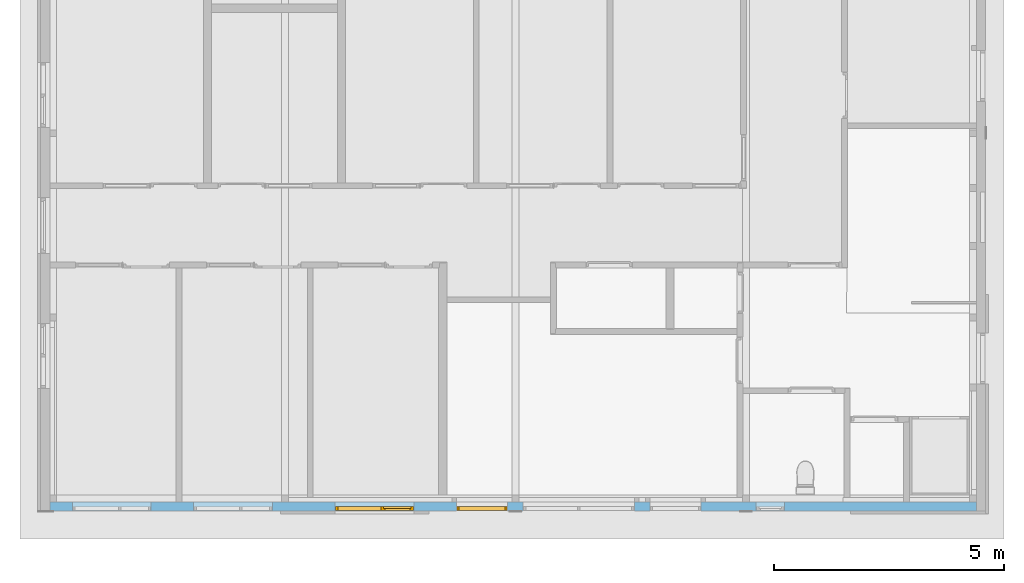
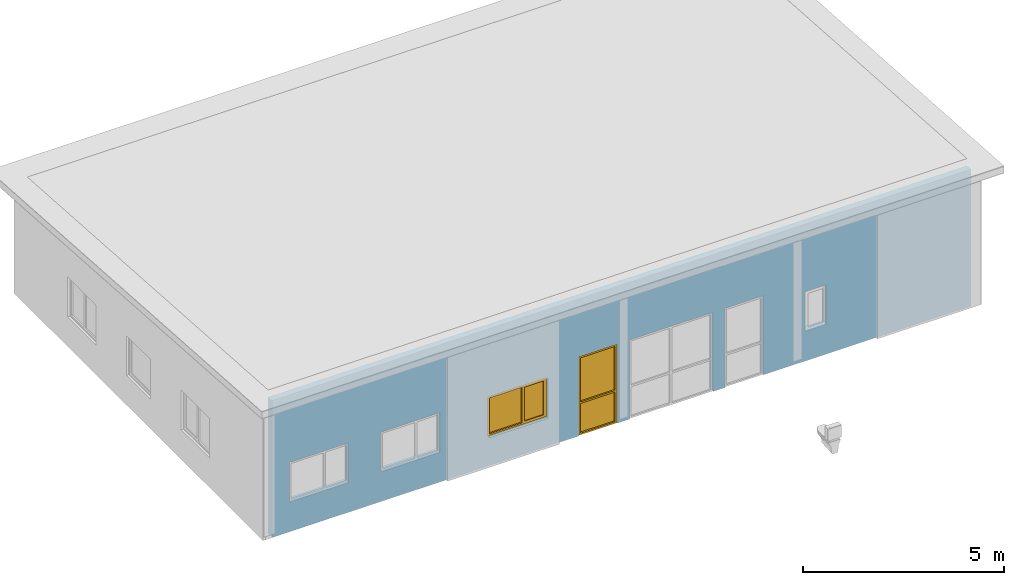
# One storey, part 14 of 37: 2 windows, 7 openings, plus 1 element that does not belong to this part.
"""IFC2X3 building model written with IfcOpenShell, lengths in millimetres."""

from ifc_helpers import new_model, entity, si_unit, converted_unit, frame, frame_2d, origin, origin_with_axes, place, context, subcontext, project, spatial, rectangle, extrude, clip, halfspace, faceted_brep, material, layer, layer_set, layer_usage, type_object, element, fill, save


model = new_model("IFC2X3")

# Units and contexts
model_context = context("Model", 3, precision=1e-05, world=origin())
plan_context = context("Plan", 3, precision=1e-05, world=origin())
body_context = subcontext(model_context, "Body", "Model", "MODEL_VIEW")
ifc_project = project(units=[si_unit("LENGTHUNIT", "METRE", prefix="MILLI"), converted_unit("PLANEANGLEUNIT", "DEGREE", entity("IfcPlaneAngleMeasure", 0.0174532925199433), si_unit("PLANEANGLEUNIT", "RADIAN"), dimensions=[0, 0, 0, 0, 0, 0, 0]), si_unit("AREAUNIT", "SQUARE_METRE"), si_unit("VOLUMEUNIT", "CUBIC_METRE")], contexts=[model_context, plan_context])

# Building, storey
building_placement = place(None, origin())
building = spatial("IfcBuilding", under=ifc_project, at=building_placement, Name="HEKF Administrasjonbygg", CompositionType="ELEMENT")
storey_placement = place(building_placement, frame((0.0, 0.0, 9900.0), z_axis=(0.0, 0.0, 1.0), x_axis=(1.0, 0.0, 0.0)))
storey = spatial("IfcBuildingStorey", under=building, at=storey_placement, Name="Plan 2", CompositionType="ELEMENT", Elevation=9900.0)

# Wall, openings, windows
ifc_material_1 = material(Name="Paroc 200")
ifc_layer = layer(ifc_material_1, 200.0)
ifc_layer_set = layer_set([ifc_layer])
ifc_layer_usage = layer_usage(ifc_layer_set, "AXIS2", "POSITIVE", 0.0)
wall_placement = place(storey_placement, frame((30000.0, -12000.0, 0.0), z_axis=(0.0, 0.0, 1.0), x_axis=(-1.0, 9.049698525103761e-17, 0.0)))
wall = element("IfcWallStandardCase", 1, at=wall_placement, inside=storey, material=ifc_layer_usage, context=body_context, shape_type="Clipping", body=[
    clip(extrude(rectangle(XDim=20100.00000000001, YDim=200.0, at=frame_2d((10050.0, 100.0), x_axis=(1.0, 0.0))), origin_with_axes(), (0.0, 0.0, 1.0), 4163.33333333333), halfspace(frame((0.0, 0.0, 4149.999999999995), z_axis=(9.405890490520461e-21, 0.06651901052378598, -0.9977851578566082), x_axis=(1.0, 0.0, 0.0)), True)),
])
opening_1_placement = place(wall_placement, frame((4165.0, 0.0, 900.0), z_axis=(0.0, 1.0, 0.0), x_axis=(0.0, 0.0, 1.0)))
element("IfcOpeningElement", 2, at=opening_1_placement, cuts=wall, Name="Window opening", ObjectType="Opening", context=body_context, shape_type="SweptSolid", body=[
    extrude(rectangle(XDim=1210.0, YDim=610.0, at=frame_2d((605.0, 305.0), x_axis=(1.0, 0.0))), origin_with_axes(), (0.0, 0.0, 1.0), 200.0),
])
opening_2_placement = place(wall_placement, frame((7420.0, 0.0, 0.0), z_axis=(0.0, 1.0, 0.0), x_axis=(0.0, 0.0, 1.0)))
element("IfcOpeningElement", 3, at=opening_2_placement, cuts=wall, Name="Window opening", ObjectType="Opening", context=body_context, shape_type="SweptSolid", body=[
    extrude(rectangle(XDim=2410.0, YDim=2410.0, at=frame_2d((1205.0, 1205.0), x_axis=(1.0, 0.0))), origin_with_axes(), (0.0, 0.0, 1.0), 200.0),
])
opening_3_placement = place(wall_placement, frame((5970.0, 0.0, 0.0), z_axis=(0.0, 1.0, 0.0), x_axis=(0.0, 0.0, 1.0)))
element("IfcOpeningElement", 4, at=opening_3_placement, cuts=wall, Name="Window opening", ObjectType="Opening", context=body_context, shape_type="SweptSolid", body=[
    extrude(rectangle(XDim=2410.0, YDim=1110.0, at=frame_2d((1205.0, 555.0), x_axis=(1.0, 0.0))), origin_with_axes(), (0.0, 0.0, 1.0), 200.0),
])
opening_4_placement = place(wall_placement, frame((10170.0, -1.818989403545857e-12, 0.0), z_axis=(0.0, 1.0, 0.0), x_axis=(0.0, 0.0, 1.0)))
opening_4 = element("IfcOpeningElement", 5, at=opening_4_placement, cuts=wall, Name="Window opening", ObjectType="Opening", context=body_context, shape_type="SweptSolid", body=[
    extrude(rectangle(XDim=2410.0, YDim=1110.0, at=frame_2d((1205.0, 555.0), x_axis=(1.0, 0.0))), origin_with_axes(), (0.0, 0.0, 1.0), 200.0),
])
opening_5_placement = place(wall_placement, frame((12200.0, -1.818989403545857e-12, 900.0), z_axis=(0.0, 1.0, 0.0), x_axis=(0.0, 0.0, 1.0)))
opening_5 = element("IfcOpeningElement", 6, at=opening_5_placement, cuts=wall, Name="Window opening", ObjectType="Opening", context=body_context, shape_type="SweptSolid", body=[
    extrude(rectangle(XDim=1210.0, YDim=1709.999999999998, at=frame_2d((605.0, 854.9999999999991), x_axis=(1.0, 0.0))), origin_with_axes(), (0.0, 0.0, 1.0), 200.0),
])
opening_6_placement = place(wall_placement, frame((15270.0, -1.818989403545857e-12, 900.0), z_axis=(0.0, 1.0, 0.0), x_axis=(0.0, 0.0, 1.0)))
element("IfcOpeningElement", 7, at=opening_6_placement, cuts=wall, Name="Window opening", ObjectType="Opening", context=body_context, shape_type="SweptSolid", body=[
    extrude(rectangle(XDim=1210.0, YDim=1710.0, at=frame_2d((605.0, 855.0), x_axis=(1.0, 0.0))), origin_with_axes(), (0.0, 0.0, 1.0), 200.0),
])
opening_7_placement = place(wall_placement, frame((17900.0, -1.818989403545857e-12, 900.0), z_axis=(0.0, 1.0, 0.0), x_axis=(0.0, 0.0, 1.0)))
element("IfcOpeningElement", 8, at=opening_7_placement, cuts=wall, Name="Window opening", ObjectType="Opening", context=body_context, shape_type="SweptSolid", body=[
    extrude(rectangle(XDim=1210.0, YDim=1710.0, at=frame_2d((605.0, 855.0), x_axis=(1.0, 0.0))), origin_with_axes(), (0.0, 0.0, 1.0), 200.0),
])
ifc_material_2 = material()
window_style_1 = type_object("IfcWindowStyle", Name="V204", ConstructionType="NOTDEFINED", OperationType="USERDEFINED", ParameterTakesPrecedence=False, Sizeable=False)
window_1_placement = place(opening_4_placement, frame((0.0, 0.0, 0.0), z_axis=(1.0, 0.0, 0.0), x_axis=(0.0, 1.0, 0.0)))
window_1 = element("IfcWindow", 9, at=window_1_placement, inside=storey, type_object=window_style_1, material=ifc_material_2, Name="V204", OverallHeight=2410.0, OverallWidth=1110.0, context=body_context, shape_type="Brep", body=[
    faceted_brep([(1100.0, 93.99999999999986, 2400.000000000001), (1100.0, 94.0, 9.999999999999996), (1050.0, 94.0, 9.999999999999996), (1050.0, 93.99999999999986, 2400.000000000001), (1100.0, 186.0, 10.0), (1100.0, 185.9999999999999, 2400.000000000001), (1050.0, 185.9999999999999, 2400.000000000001), (1050.0, 186.0, 10.0), (1100.0, 94.0, 9.999999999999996), (1100.0, 93.99999999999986, 2400.000000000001), (1100.0, 185.9999999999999, 2400.000000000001), (1100.0, 186.0, 10.0), (1050.0, 94.0, 9.999999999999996), (1100.0, 94.0, 9.999999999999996), (1100.0, 186.0, 10.0), (1050.0, 186.0, 10.0), (1050.0, 93.99999999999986, 2400.000000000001), (1050.0, 94.0, 9.999999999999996), (1050.0, 186.0, 10.0), (1050.0, 185.9999999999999, 2400.000000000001), (1100.0, 93.99999999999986, 2400.000000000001), (1050.0, 93.99999999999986, 2400.000000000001), (1050.0, 185.9999999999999, 2400.000000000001), (1100.0, 185.9999999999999, 2400.000000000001)], [[[0, 1, 2, 3]], [[4, 5, 6, 7]], [[8, 9, 10, 11]], [[12, 13, 14, 15]], [[16, 17, 18, 19]], [[20, 21, 22, 23]]], orient=[[False], [False], [False], [False], [False], [False]]),
    faceted_brep([(60.0, 93.99999999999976, 2400.000000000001), (60.0, 93.9999999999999, 9.999999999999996), (10.0, 93.9999999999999, 9.999999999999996), (10.0, 93.99999999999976, 2400.000000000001), (60.0, 185.9999999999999, 10.0), (60.0, 185.9999999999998, 2400.000000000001), (10.0, 185.9999999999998, 2400.000000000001), (10.0, 185.9999999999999, 10.0), (60.0, 93.9999999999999, 9.999999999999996), (60.0, 93.99999999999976, 2400.000000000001), (60.0, 185.9999999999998, 2400.000000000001), (60.0, 185.9999999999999, 10.0), (10.0, 93.9999999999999, 9.999999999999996), (60.0, 93.9999999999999, 9.999999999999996), (60.0, 185.9999999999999, 10.0), (10.0, 185.9999999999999, 10.0), (10.0, 93.99999999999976, 2400.000000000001), (10.0, 93.9999999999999, 9.999999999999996), (10.0, 185.9999999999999, 10.0), (10.0, 185.9999999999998, 2400.000000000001), (60.0, 93.99999999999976, 2400.000000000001), (10.0, 93.99999999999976, 2400.000000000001), (10.0, 185.9999999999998, 2400.000000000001), (60.0, 185.9999999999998, 2400.000000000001)], [[[0, 1, 2, 3]], [[4, 5, 6, 7]], [[8, 9, 10, 11]], [[12, 13, 14, 15]], [[16, 17, 18, 19]], [[20, 21, 22, 23]]], orient=[[False], [False], [False], [False], [False], [False]]),
    faceted_brep([(1050.0, 94.0, 60.0), (1050.0, 94.0, 9.999999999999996), (60.0, 93.9999999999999, 9.999999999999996), (60.0, 93.9999999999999, 60.0), (1050.0, 186.0, 10.0), (1050.0, 186.0, 60.0), (60.0, 185.9999999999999, 60.0), (60.0, 185.9999999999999, 10.0), (1050.0, 94.0, 9.999999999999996), (1050.0, 94.0, 60.0), (1050.0, 186.0, 60.0), (1050.0, 186.0, 10.0), (60.0, 93.9999999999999, 9.999999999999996), (1050.0, 94.0, 9.999999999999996), (1050.0, 186.0, 10.0), (60.0, 185.9999999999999, 10.0), (60.0, 93.9999999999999, 60.0), (60.0, 93.9999999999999, 9.999999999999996), (60.0, 185.9999999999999, 10.0), (60.0, 185.9999999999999, 60.0), (1050.0, 94.0, 60.0), (60.0, 93.9999999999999, 60.0), (60.0, 185.9999999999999, 60.0), (1050.0, 186.0, 60.0)], [[[0, 1, 2, 3]], [[4, 5, 6, 7]], [[8, 9, 10, 11]], [[12, 13, 14, 15]], [[16, 17, 18, 19]], [[20, 21, 22, 23]]], orient=[[False], [False], [False], [False], [False], [False]]),
    faceted_brep([(1050.0, 93.99999999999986, 2400.000000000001), (1050.0, 93.99999999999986, 2350.000000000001), (60.0, 93.99999999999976, 2350.000000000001), (60.0, 93.99999999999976, 2400.000000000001), (1050.0, 185.9999999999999, 2350.000000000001), (1050.0, 185.9999999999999, 2400.000000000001), (60.0, 185.9999999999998, 2400.000000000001), (60.0, 185.9999999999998, 2350.000000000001), (1050.0, 93.99999999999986, 2350.000000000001), (1050.0, 93.99999999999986, 2400.000000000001), (1050.0, 185.9999999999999, 2400.000000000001), (1050.0, 185.9999999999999, 2350.000000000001), (60.0, 93.99999999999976, 2350.000000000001), (1050.0, 93.99999999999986, 2350.000000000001), (1050.0, 185.9999999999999, 2350.000000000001), (60.0, 185.9999999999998, 2350.000000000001), (60.0, 93.99999999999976, 2400.000000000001), (60.0, 93.99999999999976, 2350.000000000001), (60.0, 185.9999999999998, 2350.000000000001), (60.0, 185.9999999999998, 2400.000000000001), (1050.0, 93.99999999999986, 2400.000000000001), (60.0, 93.99999999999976, 2400.000000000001), (60.0, 185.9999999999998, 2400.000000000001), (1050.0, 185.9999999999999, 2400.000000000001)], [[[0, 1, 2, 3]], [[4, 5, 6, 7]], [[8, 9, 10, 11]], [[12, 13, 14, 15]], [[16, 17, 18, 19]], [[20, 21, 22, 23]]], orient=[[False], [False], [False], [False], [False], [False]]),
    faceted_brep([(1050.0, 93.99999999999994, 1010.0), (1050.0, 93.99999999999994, 960.0), (60.0, 93.99999999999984, 960.0), (60.0, 93.99999999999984, 1010.0), (1050.0, 185.9999999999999, 960.0), (1050.0, 185.9999999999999, 1010.0), (60.0, 185.9999999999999, 1010.0), (60.0, 185.9999999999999, 960.0), (1050.0, 93.99999999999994, 960.0), (1050.0, 93.99999999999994, 1010.0), (1050.0, 185.9999999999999, 1010.0), (1050.0, 185.9999999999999, 960.0), (60.0, 93.99999999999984, 960.0), (1050.0, 93.99999999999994, 960.0), (1050.0, 185.9999999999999, 960.0), (60.0, 185.9999999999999, 960.0), (60.0, 93.99999999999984, 1010.0), (60.0, 93.99999999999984, 960.0), (60.0, 185.9999999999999, 960.0), (60.0, 185.9999999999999, 1010.0), (1050.0, 93.99999999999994, 1010.0), (60.0, 93.99999999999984, 1010.0), (60.0, 185.9999999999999, 1010.0), (1050.0, 185.9999999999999, 1010.0)], [[[0, 1, 2, 3]], [[4, 5, 6, 7]], [[8, 9, 10, 11]], [[12, 13, 14, 15]], [[16, 17, 18, 19]], [[20, 21, 22, 23]]], orient=[[False], [False], [False], [False], [False], [False]]),
    faceted_brep([(1050.0, 140.0, 60.00000000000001), (60.0, 139.9999999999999, 60.00000000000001), (60.0, 139.9999999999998, 960.0), (1050.0, 139.9999999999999, 960.0), (1050.0, 141.0, 60.00000000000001), (1050.0, 140.9999999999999, 960.0), (60.0, 140.9999999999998, 960.0), (60.0, 140.9999999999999, 60.00000000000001), (1050.0, 140.0, 60.00000000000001), (1050.0, 141.0, 60.00000000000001), (60.0, 140.9999999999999, 60.00000000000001), (60.0, 139.9999999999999, 60.00000000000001), (60.0, 139.9999999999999, 60.00000000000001), (60.0, 140.9999999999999, 60.00000000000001), (60.0, 140.9999999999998, 960.0), (60.0, 139.9999999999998, 960.0), (60.0, 139.9999999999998, 960.0), (60.0, 140.9999999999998, 960.0), (1050.0, 140.9999999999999, 960.0), (1050.0, 139.9999999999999, 960.0), (1050.0, 139.9999999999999, 960.0), (1050.0, 140.9999999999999, 960.0), (1050.0, 141.0, 60.00000000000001), (1050.0, 140.0, 60.00000000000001)], [[[0, 1, 2, 3]], [[4, 5, 6, 7]], [[8, 9, 10, 11]], [[12, 13, 14, 15]], [[16, 17, 18, 19]], [[20, 21, 22, 23]]], orient=[[False], [False], [False], [False], [False], [False]]),
    faceted_brep([(1050.0, 139.9999999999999, 1010.0), (60.0, 139.9999999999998, 1010.0), (60.0, 139.9999999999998, 2350.000000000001), (1050.0, 139.9999999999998, 2350.000000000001), (1050.0, 140.9999999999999, 1010.0), (1050.0, 140.9999999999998, 2350.000000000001), (60.0, 140.9999999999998, 2350.000000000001), (60.0, 140.9999999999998, 1010.0), (1050.0, 139.9999999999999, 1010.0), (1050.0, 140.9999999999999, 1010.0), (60.0, 140.9999999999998, 1010.0), (60.0, 139.9999999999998, 1010.0), (60.0, 139.9999999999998, 1010.0), (60.0, 140.9999999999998, 1010.0), (60.0, 140.9999999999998, 2350.000000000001), (60.0, 139.9999999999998, 2350.000000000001), (60.0, 139.9999999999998, 2350.000000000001), (60.0, 140.9999999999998, 2350.000000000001), (1050.0, 140.9999999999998, 2350.000000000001), (1050.0, 139.9999999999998, 2350.000000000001), (1050.0, 139.9999999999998, 2350.000000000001), (1050.0, 140.9999999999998, 2350.000000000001), (1050.0, 140.9999999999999, 1010.0), (1050.0, 139.9999999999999, 1010.0)], [[[0, 1, 2, 3]], [[4, 5, 6, 7]], [[8, 9, 10, 11]], [[12, 13, 14, 15]], [[16, 17, 18, 19]], [[20, 21, 22, 23]]], orient=[[False], [False], [False], [False], [False], [False]]),
])
fill(opening_4, window_1)
ifc_material_3 = material()
window_style_2 = type_object("IfcWindowStyle", Name="V203", ConstructionType="NOTDEFINED", OperationType="USERDEFINED", ParameterTakesPrecedence=False, Sizeable=False)
window_2_placement = place(opening_5_placement, frame((0.0, 0.0, 0.0), z_axis=(1.0, 0.0, 0.0), x_axis=(0.0, 1.0, 0.0)))
window_2 = element("IfcWindow", 10, at=window_2_placement, inside=storey, type_object=window_style_2, material=ifc_material_3, Name="V203", OverallHeight=1210.0, OverallWidth=1710.0, context=body_context, shape_type="Brep", body=[
    faceted_brep([(1699.999999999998, 93.99999999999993, 1200.0), (1699.999999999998, 94.0, 9.999999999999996), (1649.999999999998, 94.0, 9.999999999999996), (1649.999999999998, 93.99999999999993, 1200.0), (1699.999999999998, 186.0, 10.0), (1699.999999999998, 185.9999999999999, 1200.0), (1649.999999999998, 185.9999999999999, 1200.0), (1649.999999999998, 186.0, 10.0), (1699.999999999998, 94.0, 9.999999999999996), (1699.999999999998, 93.99999999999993, 1200.0), (1699.999999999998, 185.9999999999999, 1200.0), (1699.999999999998, 186.0, 10.0), (1649.999999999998, 94.0, 9.999999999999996), (1699.999999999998, 94.0, 9.999999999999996), (1699.999999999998, 186.0, 10.0), (1649.999999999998, 186.0, 10.0), (1649.999999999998, 93.99999999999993, 1200.0), (1649.999999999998, 94.0, 9.999999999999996), (1649.999999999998, 186.0, 10.0), (1649.999999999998, 185.9999999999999, 1200.0), (1699.999999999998, 93.99999999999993, 1200.0), (1649.999999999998, 93.99999999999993, 1200.0), (1649.999999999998, 185.9999999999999, 1200.0), (1699.999999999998, 185.9999999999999, 1200.0)], [[[0, 1, 2, 3]], [[4, 5, 6, 7]], [[8, 9, 10, 11]], [[12, 13, 14, 15]], [[16, 17, 18, 19]], [[20, 21, 22, 23]]], orient=[[False], [False], [False], [False], [False], [False]]),
    faceted_brep([(59.99999999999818, 93.99999999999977, 1200.0), (59.99999999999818, 93.99999999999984, 9.999999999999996), (9.999999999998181, 93.99999999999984, 9.999999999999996), (9.999999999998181, 93.99999999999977, 1200.0), (59.99999999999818, 185.9999999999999, 10.0), (59.99999999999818, 185.9999999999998, 1200.0), (9.999999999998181, 185.9999999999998, 1200.0), (9.999999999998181, 185.9999999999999, 10.0), (59.99999999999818, 93.99999999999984, 9.999999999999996), (59.99999999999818, 93.99999999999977, 1200.0), (59.99999999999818, 185.9999999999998, 1200.0), (59.99999999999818, 185.9999999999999, 10.0), (9.999999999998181, 93.99999999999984, 9.999999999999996), (59.99999999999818, 93.99999999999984, 9.999999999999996), (59.99999999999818, 185.9999999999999, 10.0), (9.999999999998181, 185.9999999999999, 10.0), (9.999999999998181, 93.99999999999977, 1200.0), (9.999999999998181, 93.99999999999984, 9.999999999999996), (9.999999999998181, 185.9999999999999, 10.0), (9.999999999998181, 185.9999999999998, 1200.0), (59.99999999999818, 93.99999999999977, 1200.0), (9.999999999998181, 93.99999999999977, 1200.0), (9.999999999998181, 185.9999999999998, 1200.0), (59.99999999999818, 185.9999999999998, 1200.0)], [[[0, 1, 2, 3]], [[4, 5, 6, 7]], [[8, 9, 10, 11]], [[12, 13, 14, 15]], [[16, 17, 18, 19]], [[20, 21, 22, 23]]], orient=[[False], [False], [False], [False], [False], [False]]),
    faceted_brep([(1649.999999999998, 94.0, 60.0), (1649.999999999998, 94.0, 9.999999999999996), (59.99999999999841, 93.99999999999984, 9.999999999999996), (59.99999999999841, 93.99999999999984, 60.0), (1649.999999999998, 186.0, 10.0), (1649.999999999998, 186.0, 60.0), (59.99999999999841, 185.9999999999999, 60.0), (59.99999999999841, 185.9999999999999, 10.0), (1649.999999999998, 94.0, 9.999999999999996), (1649.999999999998, 94.0, 60.0), (1649.999999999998, 186.0, 60.0), (1649.999999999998, 186.0, 10.0), (59.99999999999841, 93.99999999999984, 9.999999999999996), (1649.999999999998, 94.0, 9.999999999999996), (1649.999999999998, 186.0, 10.0), (59.99999999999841, 185.9999999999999, 10.0), (59.99999999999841, 93.99999999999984, 60.0), (59.99999999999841, 93.99999999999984, 9.999999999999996), (59.99999999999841, 185.9999999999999, 10.0), (59.99999999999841, 185.9999999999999, 60.0), (1649.999999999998, 94.0, 60.0), (59.99999999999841, 93.99999999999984, 60.0), (59.99999999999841, 185.9999999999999, 60.0), (1649.999999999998, 186.0, 60.0)], [[[0, 1, 2, 3]], [[4, 5, 6, 7]], [[8, 9, 10, 11]], [[12, 13, 14, 15]], [[16, 17, 18, 19]], [[20, 21, 22, 23]]], orient=[[False], [False], [False], [False], [False], [False]]),
    faceted_brep([(1649.999999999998, 93.99999999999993, 1200.0), (1649.999999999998, 93.99999999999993, 1150.0), (59.99999999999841, 93.99999999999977, 1150.0), (59.99999999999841, 93.99999999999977, 1200.0), (1649.999999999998, 185.9999999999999, 1150.0), (1649.999999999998, 185.9999999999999, 1200.0), (59.99999999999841, 185.9999999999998, 1200.0), (59.99999999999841, 185.9999999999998, 1150.0), (1649.999999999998, 93.99999999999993, 1150.0), (1649.999999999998, 93.99999999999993, 1200.0), (1649.999999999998, 185.9999999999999, 1200.0), (1649.999999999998, 185.9999999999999, 1150.0), (59.99999999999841, 93.99999999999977, 1150.0), (1649.999999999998, 93.99999999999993, 1150.0), (1649.999999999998, 185.9999999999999, 1150.0), (59.99999999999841, 185.9999999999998, 1150.0), (59.99999999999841, 93.99999999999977, 1200.0), (59.99999999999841, 93.99999999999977, 1150.0), (59.99999999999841, 185.9999999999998, 1150.0), (59.99999999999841, 185.9999999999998, 1200.0), (1649.999999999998, 93.99999999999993, 1200.0), (59.99999999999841, 93.99999999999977, 1200.0), (59.99999999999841, 185.9999999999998, 1200.0), (1649.999999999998, 185.9999999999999, 1200.0)], [[[0, 1, 2, 3]], [[4, 5, 6, 7]], [[8, 9, 10, 11]], [[12, 13, 14, 15]], [[16, 17, 18, 19]], [[20, 21, 22, 23]]], orient=[[False], [False], [False], [False], [False], [False]]),
    faceted_brep([(709.9999999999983, 93.99999999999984, 1150.0), (709.9999999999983, 93.99999999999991, 60.00000000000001), (659.9999999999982, 93.9999999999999, 60.00000000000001), (659.9999999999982, 93.99999999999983, 1150.0), (709.9999999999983, 185.9999999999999, 60.00000000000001), (709.9999999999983, 185.9999999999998, 1150.0), (659.9999999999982, 185.9999999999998, 1150.0), (659.9999999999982, 185.9999999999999, 60.00000000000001), (709.9999999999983, 93.99999999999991, 60.00000000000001), (709.9999999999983, 93.99999999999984, 1150.0), (709.9999999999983, 185.9999999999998, 1150.0), (709.9999999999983, 185.9999999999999, 60.00000000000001), (659.9999999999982, 93.9999999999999, 60.00000000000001), (709.9999999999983, 93.99999999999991, 60.00000000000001), (709.9999999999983, 185.9999999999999, 60.00000000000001), (659.9999999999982, 185.9999999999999, 60.00000000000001), (659.9999999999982, 93.99999999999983, 1150.0), (659.9999999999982, 93.9999999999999, 60.00000000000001), (659.9999999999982, 185.9999999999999, 60.00000000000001), (659.9999999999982, 185.9999999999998, 1150.0), (709.9999999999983, 93.99999999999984, 1150.0), (659.9999999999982, 93.99999999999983, 1150.0), (659.9999999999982, 185.9999999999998, 1150.0), (709.9999999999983, 185.9999999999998, 1150.0)], [[[0, 1, 2, 3]], [[4, 5, 6, 7]], [[8, 9, 10, 11]], [[12, 13, 14, 15]], [[16, 17, 18, 19]], [[20, 21, 22, 23]]], orient=[[False], [False], [False], [False], [False], [False]]),
    faceted_brep([(1649.999999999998, 140.0, 60.00000000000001), (709.9999999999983, 139.9999999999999, 60.00000000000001), (709.9999999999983, 139.9999999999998, 1150.0), (1649.999999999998, 139.9999999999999, 1150.0), (1649.999999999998, 141.0, 60.00000000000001), (1649.999999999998, 140.9999999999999, 1150.0), (709.9999999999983, 140.9999999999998, 1150.0), (709.9999999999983, 140.9999999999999, 60.00000000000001), (1649.999999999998, 140.0, 60.00000000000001), (1649.999999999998, 141.0, 60.00000000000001), (709.9999999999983, 140.9999999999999, 60.00000000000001), (709.9999999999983, 139.9999999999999, 60.00000000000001), (709.9999999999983, 139.9999999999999, 60.00000000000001), (709.9999999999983, 140.9999999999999, 60.00000000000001), (709.9999999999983, 140.9999999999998, 1150.0), (709.9999999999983, 139.9999999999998, 1150.0), (709.9999999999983, 139.9999999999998, 1150.0), (709.9999999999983, 140.9999999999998, 1150.0), (1649.999999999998, 140.9999999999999, 1150.0), (1649.999999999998, 139.9999999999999, 1150.0), (1649.999999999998, 139.9999999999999, 1150.0), (1649.999999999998, 140.9999999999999, 1150.0), (1649.999999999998, 141.0, 60.00000000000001), (1649.999999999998, 140.0, 60.00000000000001)], [[[0, 1, 2, 3]], [[4, 5, 6, 7]], [[8, 9, 10, 11]], [[12, 13, 14, 15]], [[16, 17, 18, 19]], [[20, 21, 22, 23]]], orient=[[False], [False], [False], [False], [False], [False]]),
    faceted_brep([(679.9999999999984, 135.9999999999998, 1170.0), (679.9999999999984, 135.9999999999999, 40.0), (629.9999999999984, 135.9999999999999, 40.0), (629.9999999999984, 135.9999999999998, 1170.0), (679.9999999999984, 185.9999999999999, 40.0), (679.9999999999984, 185.9999999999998, 1170.0), (629.9999999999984, 185.9999999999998, 1170.0), (629.9999999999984, 185.9999999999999, 40.0), (679.9999999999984, 135.9999999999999, 40.0), (679.9999999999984, 135.9999999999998, 1170.0), (679.9999999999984, 185.9999999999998, 1170.0), (679.9999999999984, 185.9999999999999, 40.0), (629.9999999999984, 135.9999999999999, 40.0), (679.9999999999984, 135.9999999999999, 40.0), (679.9999999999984, 185.9999999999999, 40.0), (629.9999999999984, 185.9999999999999, 40.0), (629.9999999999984, 135.9999999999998, 1170.0), (629.9999999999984, 135.9999999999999, 40.0), (629.9999999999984, 185.9999999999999, 40.0), (629.9999999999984, 185.9999999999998, 1170.0), (679.9999999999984, 135.9999999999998, 1170.0), (629.9999999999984, 135.9999999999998, 1170.0), (629.9999999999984, 185.9999999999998, 1170.0), (679.9999999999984, 185.9999999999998, 1170.0)], [[[0, 1, 2, 3]], [[4, 5, 6, 7]], [[8, 9, 10, 11]], [[12, 13, 14, 15]], [[16, 17, 18, 19]], [[20, 21, 22, 23]]], orient=[[False], [False], [False], [False], [False], [False]]),
    faceted_brep([(89.99999999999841, 135.9999999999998, 1170.0), (89.99999999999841, 135.9999999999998, 40.0), (39.99999999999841, 135.9999999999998, 40.0), (39.99999999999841, 135.9999999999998, 1170.0), (89.99999999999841, 185.9999999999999, 40.0), (89.99999999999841, 185.9999999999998, 1170.0), (39.99999999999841, 185.9999999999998, 1170.0), (39.99999999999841, 185.9999999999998, 40.0), (89.99999999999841, 135.9999999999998, 40.0), (89.99999999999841, 135.9999999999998, 1170.0), (89.99999999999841, 185.9999999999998, 1170.0), (89.99999999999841, 185.9999999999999, 40.0), (39.99999999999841, 135.9999999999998, 40.0), (89.99999999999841, 135.9999999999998, 40.0), (89.99999999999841, 185.9999999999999, 40.0), (39.99999999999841, 185.9999999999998, 40.0), (39.99999999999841, 135.9999999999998, 1170.0), (39.99999999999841, 135.9999999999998, 40.0), (39.99999999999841, 185.9999999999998, 40.0), (39.99999999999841, 185.9999999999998, 1170.0), (89.99999999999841, 135.9999999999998, 1170.0), (39.99999999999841, 135.9999999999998, 1170.0), (39.99999999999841, 185.9999999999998, 1170.0), (89.99999999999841, 185.9999999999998, 1170.0)], [[[0, 1, 2, 3]], [[4, 5, 6, 7]], [[8, 9, 10, 11]], [[12, 13, 14, 15]], [[16, 17, 18, 19]], [[20, 21, 22, 23]]], orient=[[False], [False], [False], [False], [False], [False]]),
    faceted_brep([(629.9999999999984, 135.9999999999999, 90.0), (629.9999999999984, 135.9999999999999, 40.0), (89.99999999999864, 135.9999999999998, 40.0), (89.99999999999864, 135.9999999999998, 90.0), (629.9999999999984, 185.9999999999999, 40.0), (629.9999999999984, 185.9999999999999, 90.0), (89.99999999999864, 185.9999999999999, 90.0), (89.99999999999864, 185.9999999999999, 40.0), (629.9999999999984, 135.9999999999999, 40.0), (629.9999999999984, 135.9999999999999, 90.0), (629.9999999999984, 185.9999999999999, 90.0), (629.9999999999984, 185.9999999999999, 40.0), (89.99999999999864, 135.9999999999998, 40.0), (629.9999999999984, 135.9999999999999, 40.0), (629.9999999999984, 185.9999999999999, 40.0), (89.99999999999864, 185.9999999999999, 40.0), (89.99999999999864, 135.9999999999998, 90.0), (89.99999999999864, 135.9999999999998, 40.0), (89.99999999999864, 185.9999999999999, 40.0), (89.99999999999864, 185.9999999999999, 90.0), (629.9999999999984, 135.9999999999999, 90.0), (89.99999999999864, 135.9999999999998, 90.0), (89.99999999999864, 185.9999999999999, 90.0), (629.9999999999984, 185.9999999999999, 90.0)], [[[0, 1, 2, 3]], [[4, 5, 6, 7]], [[8, 9, 10, 11]], [[12, 13, 14, 15]], [[16, 17, 18, 19]], [[20, 21, 22, 23]]], orient=[[False], [False], [False], [False], [False], [False]]),
    faceted_brep([(629.9999999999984, 135.9999999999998, 1170.0), (629.9999999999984, 135.9999999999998, 1120.0), (89.99999999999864, 135.9999999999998, 1120.0), (89.99999999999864, 135.9999999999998, 1170.0), (629.9999999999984, 185.9999999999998, 1120.0), (629.9999999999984, 185.9999999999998, 1170.0), (89.99999999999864, 185.9999999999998, 1170.0), (89.99999999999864, 185.9999999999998, 1120.0), (629.9999999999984, 135.9999999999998, 1120.0), (629.9999999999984, 135.9999999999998, 1170.0), (629.9999999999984, 185.9999999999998, 1170.0), (629.9999999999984, 185.9999999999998, 1120.0), (89.99999999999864, 135.9999999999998, 1120.0), (629.9999999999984, 135.9999999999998, 1120.0), (629.9999999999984, 185.9999999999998, 1120.0), (89.99999999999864, 185.9999999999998, 1120.0), (89.99999999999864, 135.9999999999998, 1170.0), (89.99999999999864, 135.9999999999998, 1120.0), (89.99999999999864, 185.9999999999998, 1120.0), (89.99999999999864, 185.9999999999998, 1170.0), (629.9999999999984, 135.9999999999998, 1170.0), (89.99999999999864, 135.9999999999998, 1170.0), (89.99999999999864, 185.9999999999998, 1170.0), (629.9999999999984, 185.9999999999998, 1170.0)], [[[0, 1, 2, 3]], [[4, 5, 6, 7]], [[8, 9, 10, 11]], [[12, 13, 14, 15]], [[16, 17, 18, 19]], [[20, 21, 22, 23]]], orient=[[False], [False], [False], [False], [False], [False]]),
    faceted_brep([(629.9999999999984, 160.9999999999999, 90.00000000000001), (89.99999999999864, 160.9999999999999, 90.00000000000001), (89.99999999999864, 160.9999999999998, 1120.0), (629.9999999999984, 160.9999999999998, 1120.0), (629.9999999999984, 161.9999999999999, 90.00000000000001), (629.9999999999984, 161.9999999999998, 1120.0), (89.99999999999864, 161.9999999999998, 1120.0), (89.99999999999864, 161.9999999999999, 90.00000000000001), (629.9999999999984, 160.9999999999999, 90.00000000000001), (629.9999999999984, 161.9999999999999, 90.00000000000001), (89.99999999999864, 161.9999999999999, 90.00000000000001), (89.99999999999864, 160.9999999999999, 90.00000000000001), (89.99999999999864, 160.9999999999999, 90.00000000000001), (89.99999999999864, 161.9999999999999, 90.00000000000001), (89.99999999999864, 161.9999999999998, 1120.0), (89.99999999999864, 160.9999999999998, 1120.0), (89.99999999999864, 160.9999999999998, 1120.0), (89.99999999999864, 161.9999999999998, 1120.0), (629.9999999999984, 161.9999999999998, 1120.0), (629.9999999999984, 160.9999999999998, 1120.0), (629.9999999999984, 160.9999999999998, 1120.0), (629.9999999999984, 161.9999999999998, 1120.0), (629.9999999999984, 161.9999999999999, 90.00000000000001), (629.9999999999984, 160.9999999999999, 90.00000000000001)], [[[0, 1, 2, 3]], [[4, 5, 6, 7]], [[8, 9, 10, 11]], [[12, 13, 14, 15]], [[16, 17, 18, 19]], [[20, 21, 22, 23]]], orient=[[False], [False], [False], [False], [False], [False]]),
])
fill(opening_5, window_2)

save(model, "model.ifc")
